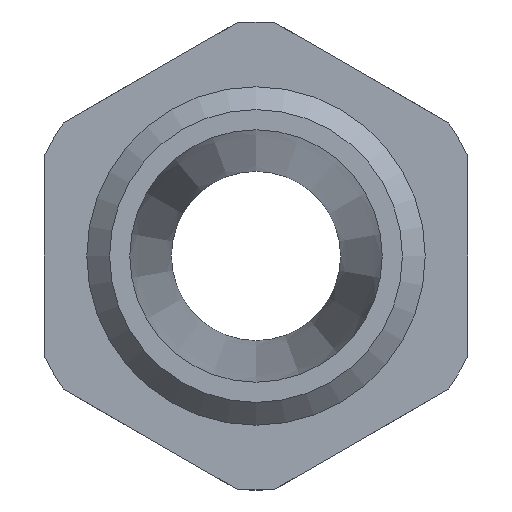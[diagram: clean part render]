
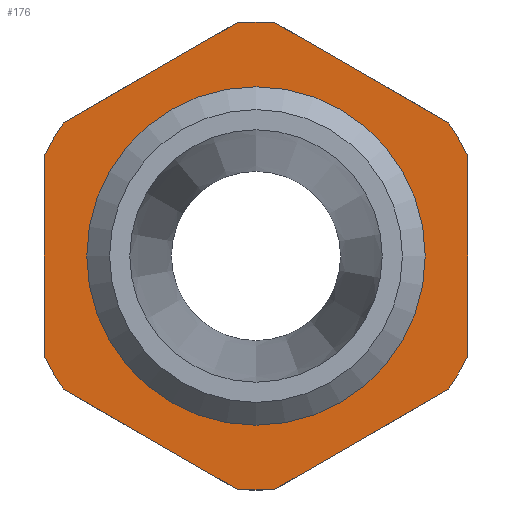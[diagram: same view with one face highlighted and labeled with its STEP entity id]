
A CAD part, left-side view. The second image highlights one B-rep face of the part: STEP entity #176.
In plain terms, the highlighted planar face has unit normal (-1, 0, 0).
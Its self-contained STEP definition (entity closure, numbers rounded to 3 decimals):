
#176 = ADVANCED_FACE( '', ( #393, #394 ), #395, .T. );
#393 = FACE_BOUND( '', #644, .T. );
#394 = FACE_OUTER_BOUND( '', #645, .T. );
#395 = PLANE( '', #646 );
#644 = EDGE_LOOP( '', ( #1091 ) );
#645 = EDGE_LOOP( '', ( #1092, #1093, #1094, #1095, #1096, #1097, #1098, #1099, #1100, #1101, #1102, #1103 ) );
#646 = AXIS2_PLACEMENT_3D( '', #1104, #1105, #1106 );
#1091 = ORIENTED_EDGE( '', *, *, #1597, .T. );
#1092 = ORIENTED_EDGE( '', *, *, #1559, .F. );
#1093 = ORIENTED_EDGE( '', *, *, #1599, .F. );
#1094 = ORIENTED_EDGE( '', *, *, #1600, .F. );
#1095 = ORIENTED_EDGE( '', *, *, #1601, .T. );
#1096 = ORIENTED_EDGE( '', *, *, #1526, .F. );
#1097 = ORIENTED_EDGE( '', *, *, #1602, .F. );
#1098 = ORIENTED_EDGE( '', *, *, #1603, .F. );
#1099 = ORIENTED_EDGE( '', *, *, #1548, .F. );
#1100 = ORIENTED_EDGE( '', *, *, #1533, .F. );
#1101 = ORIENTED_EDGE( '', *, *, #1499, .F. );
#1102 = ORIENTED_EDGE( '', *, *, #1604, .F. );
#1103 = ORIENTED_EDGE( '', *, *, #1605, .F. );
#1104 = CARTESIAN_POINT( '', ( 8., 10., 0. ) );
#1105 = DIRECTION( '', ( -1., 0., 0. ) );
#1106 = DIRECTION( '', ( 0., 0., 1. ) );
#1499 = EDGE_CURVE( '', #1808, #1811, #1812, .T. );
#1526 = EDGE_CURVE( '', #1852, #1854, #1855, .T. );
#1533 = EDGE_CURVE( '', #1811, #1864, #1865, .T. );
#1548 = EDGE_CURVE( '', #1864, #1885, #1886, .T. );
#1559 = EDGE_CURVE( '', #1898, #1900, #1901, .T. );
#1597 = EDGE_CURVE( '', #1954, #1954, #1955, .T. );
#1599 = EDGE_CURVE( '', #1957, #1898, #1958, .T. );
#1600 = EDGE_CURVE( '', #1959, #1957, #1960, .T. );
#1601 = EDGE_CURVE( '', #1959, #1854, #1961, .T. );
#1602 = EDGE_CURVE( '', #1962, #1852, #1963, .T. );
#1603 = EDGE_CURVE( '', #1885, #1962, #1964, .T. );
#1604 = EDGE_CURVE( '', #1965, #1808, #1966, .T. );
#1605 = EDGE_CURVE( '', #1900, #1965, #1967, .T. );
#1808 = VERTEX_POINT( '', #2252 );
#1811 = VERTEX_POINT( '', #2256 );
#1812 = LINE( '', #2257, #2258 );
#1852 = VERTEX_POINT( '', #2329 );
#1854 = VERTEX_POINT( '', #2332 );
#1855 = CIRCLE( '', #2333, 8.3 );
#1864 = VERTEX_POINT( '', #2346 );
#1865 = CIRCLE( '', #2347, 8.3 );
#1885 = VERTEX_POINT( '', #2377 );
#1886 = LINE( '', #2378, #2379 );
#1898 = VERTEX_POINT( '', #2398 );
#1900 = VERTEX_POINT( '', #2401 );
#1901 = CIRCLE( '', #2402, 8.3 );
#1954 = VERTEX_POINT( '', #2473 );
#1955 = CIRCLE( '', #2474, 5.19 );
#1957 = VERTEX_POINT( '', #2476 );
#1958 = LINE( '', #2477, #2478 );
#1959 = VERTEX_POINT( '', #2479 );
#1960 = CIRCLE( '', #2480, 8.3 );
#1961 = LINE( '', #2481, #2482 );
#1962 = VERTEX_POINT( '', #2483 );
#1963 = LINE( '', #2484, #2485 );
#1964 = CIRCLE( '', #2486, 8.3 );
#1965 = VERTEX_POINT( '', #2487 );
#1966 = CIRCLE( '', #2488, 8.3 );
#1967 = LINE( '', #2489, #2490 );
#2252 = CARTESIAN_POINT( '', ( 8., -7.5, 3.555 ) );
#2256 = CARTESIAN_POINT( '', ( 8., -7.5, -3.555 ) );
#2257 = CARTESIAN_POINT( '', ( 8., -7.5, 3.555 ) );
#2258 = VECTOR( '', #2730, 1000. );
#2329 = CARTESIAN_POINT( '', ( 8., 6.829, -4.718 ) );
#2332 = CARTESIAN_POINT( '', ( 8., 7.5, -3.555 ) );
#2333 = AXIS2_PLACEMENT_3D( '', #2751, #2752, #2753 );
#2346 = CARTESIAN_POINT( '', ( 8., -6.829, -4.718 ) );
#2347 = AXIS2_PLACEMENT_3D( '', #2758, #2759, #2760 );
#2377 = CARTESIAN_POINT( '', ( 8., -0.671, -8.273 ) );
#2378 = CARTESIAN_POINT( '', ( 8., -6.829, -4.718 ) );
#2379 = VECTOR( '', #2777, 1000. );
#2398 = CARTESIAN_POINT( '', ( 8., 0.671, 8.273 ) );
#2401 = CARTESIAN_POINT( '', ( 8., -0.671, 8.273 ) );
#2402 = AXIS2_PLACEMENT_3D( '', #2789, #2790, #2791 );
#2473 = CARTESIAN_POINT( '', ( 8., 0., -5.19 ) );
#2474 = AXIS2_PLACEMENT_3D( '', #2848, #2849, #2850 );
#2476 = CARTESIAN_POINT( '', ( 8., 6.829, 4.718 ) );
#2477 = CARTESIAN_POINT( '', ( 8., 6.829, 4.718 ) );
#2478 = VECTOR( '', #2851, 1000. );
#2479 = CARTESIAN_POINT( '', ( 8., 7.5, 3.555 ) );
#2480 = AXIS2_PLACEMENT_3D( '', #2852, #2853, #2854 );
#2481 = CARTESIAN_POINT( '', ( 8., 7.5, 0. ) );
#2482 = VECTOR( '', #2855, 1000. );
#2483 = CARTESIAN_POINT( '', ( 8., 0.671, -8.273 ) );
#2484 = CARTESIAN_POINT( '', ( 8., 0.671, -8.273 ) );
#2485 = VECTOR( '', #2856, 1000. );
#2486 = AXIS2_PLACEMENT_3D( '', #2857, #2858, #2859 );
#2487 = CARTESIAN_POINT( '', ( 8., -6.829, 4.718 ) );
#2488 = AXIS2_PLACEMENT_3D( '', #2860, #2861, #2862 );
#2489 = CARTESIAN_POINT( '', ( 8., -0.671, 8.273 ) );
#2490 = VECTOR( '', #2863, 1000. );
#2730 = DIRECTION( '', ( 0., 0., -1. ) );
#2751 = CARTESIAN_POINT( '', ( 8., 0., 0. ) );
#2752 = DIRECTION( '', ( 1., 0., 0. ) );
#2753 = DIRECTION( '', ( 0., 0., -1. ) );
#2758 = CARTESIAN_POINT( '', ( 8., 0., 0. ) );
#2759 = DIRECTION( '', ( 1., 0., 0. ) );
#2760 = DIRECTION( '', ( 0., 0., -1. ) );
#2777 = DIRECTION( '', ( 0., 0.866, -0.5 ) );
#2789 = CARTESIAN_POINT( '', ( 8., 0., 0. ) );
#2790 = DIRECTION( '', ( 1., 0., 0. ) );
#2791 = DIRECTION( '', ( 0., 0., -1. ) );
#2848 = CARTESIAN_POINT( '', ( 8., 0., 0. ) );
#2849 = DIRECTION( '', ( 1., 0., 0. ) );
#2850 = DIRECTION( '', ( 0., 0., -1. ) );
#2851 = DIRECTION( '', ( 0., -0.866, 0.5 ) );
#2852 = CARTESIAN_POINT( '', ( 8., 0., 0. ) );
#2853 = DIRECTION( '', ( 1., 0., 0. ) );
#2854 = DIRECTION( '', ( 0., 0., -1. ) );
#2855 = DIRECTION( '', ( 0., 0., -1. ) );
#2856 = DIRECTION( '', ( 0., 0.866, 0.5 ) );
#2857 = CARTESIAN_POINT( '', ( 8., 0., 0. ) );
#2858 = DIRECTION( '', ( 1., 0., 0. ) );
#2859 = DIRECTION( '', ( 0., 0., -1. ) );
#2860 = CARTESIAN_POINT( '', ( 8., 0., 0. ) );
#2861 = DIRECTION( '', ( 1., 0., 0. ) );
#2862 = DIRECTION( '', ( 0., 0., -1. ) );
#2863 = DIRECTION( '', ( 0., -0.866, -0.5 ) );
